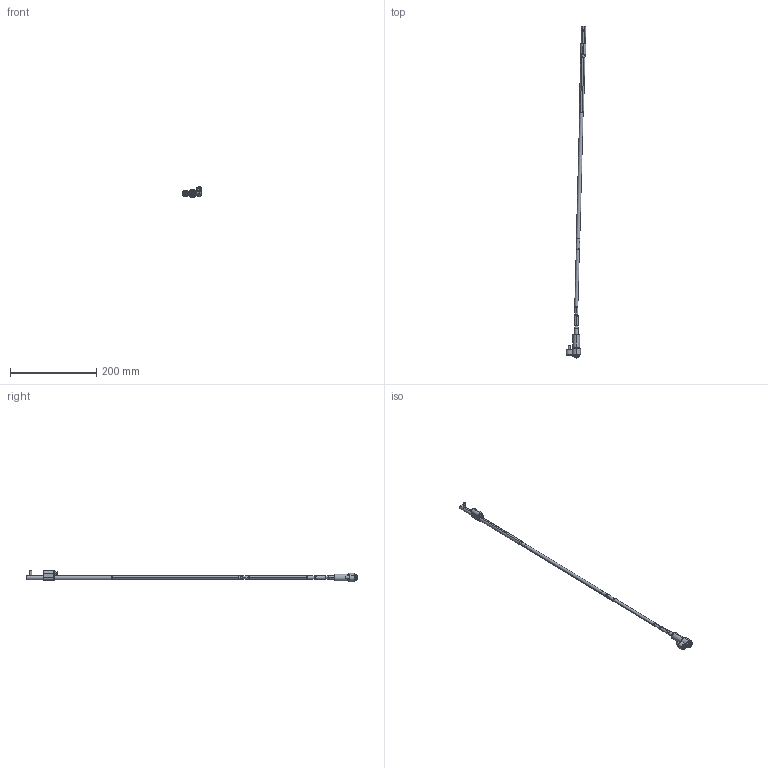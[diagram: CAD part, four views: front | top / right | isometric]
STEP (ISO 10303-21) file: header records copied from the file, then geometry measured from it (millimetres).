
FILE_DESCRIPTION (( 'STEP AP214' ), '1' );
FILE_NAME ('WL080125-EJE 1,5°.STEP', '2021-03-19T15:28:37', ( '' ), ( '' ), 'SwSTEP 2.0', 'SolidWorks 2019', '' );
FILE_SCHEMA (( 'AUTOMOTIVE_DESIGN' ));
Length unit declared in the file: millimetre
Products named in the file (17): Web-WL08-A3; WL080100-B1_WL0800FF-1; WL080100-D; 1DIN912616_DIN 912 M6 x 16 --- 16C; WL080125-EJE 1,5°; Web-WL08XX-A7_ON-WL080125-1,5; WL080100-C; Web-WP08-1; Web-WL08-F01; WL080100-E; WL080100-B_WL0800FF; Web-WL08-F00.SLDPRT; Web-WL08-A2; 1DIN912545_DIN 912 M5 x 50 --- 50C; 3IMAN4X2-150_con sello; Web-WL08-A1; 9DR2206-TOR
Assembly tree (16 placements, depth 3):
  WL080125-EJE 1,5°
    Web-WP08-1
    Web-WL08XX-A7_ON-WL080125-1,5
    Web-WL08-A3
    Web-WL08-A2
    Web-WL08-A1
    WL080100-D
    WL080100-C
    WL080100-B_WL0800FF
      WL080100-B1_WL0800FF-1
      3IMAN4X2-150_con sello
    WL080100-E
    9DR2206-TOR
    Web-WL08-F00.SLDPRT
      Web-WL08-F01
      1DIN912545_DIN 912 M5 x 50 --- 50C
      1DIN912616_DIN 912 M6 x 16 --- 16C
Bounding box: 46.46 x 771.9 x 26.9 mm (x, y, z)
Volume: 58701.8 mm3; surface area: 34416.1 mm2
Topology: 15 solids, 15 shells, 424 faces, 888 edges, 516 vertices
Faces by surface type: plane 132, cylinder 128, cone 116, torus 48
Entity records: 13492 total; most frequent: DIRECTION 2218, CARTESIAN_POINT 2045, ORIENTED_EDGE 1756, AXIS2_PLACEMENT_3D 921, EDGE_CURVE 878, VERTEX_POINT 516, CIRCLE 476, EDGE_LOOP 468
